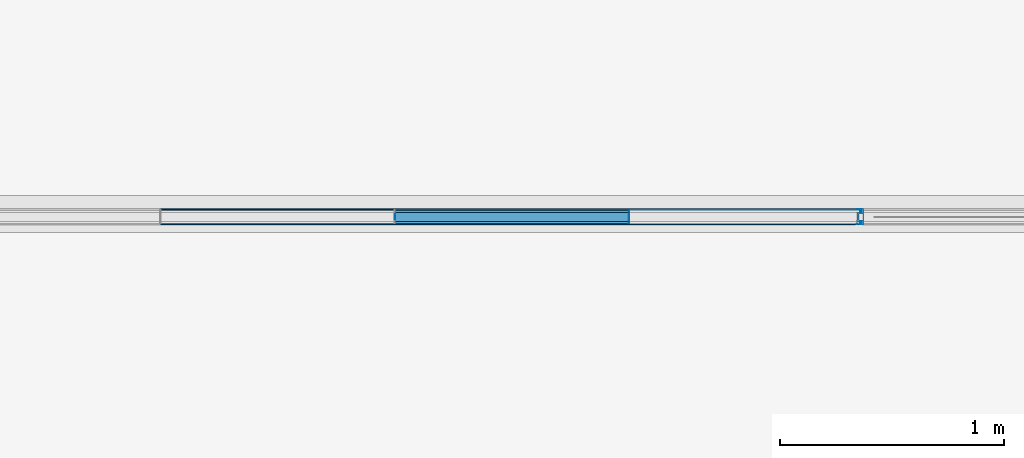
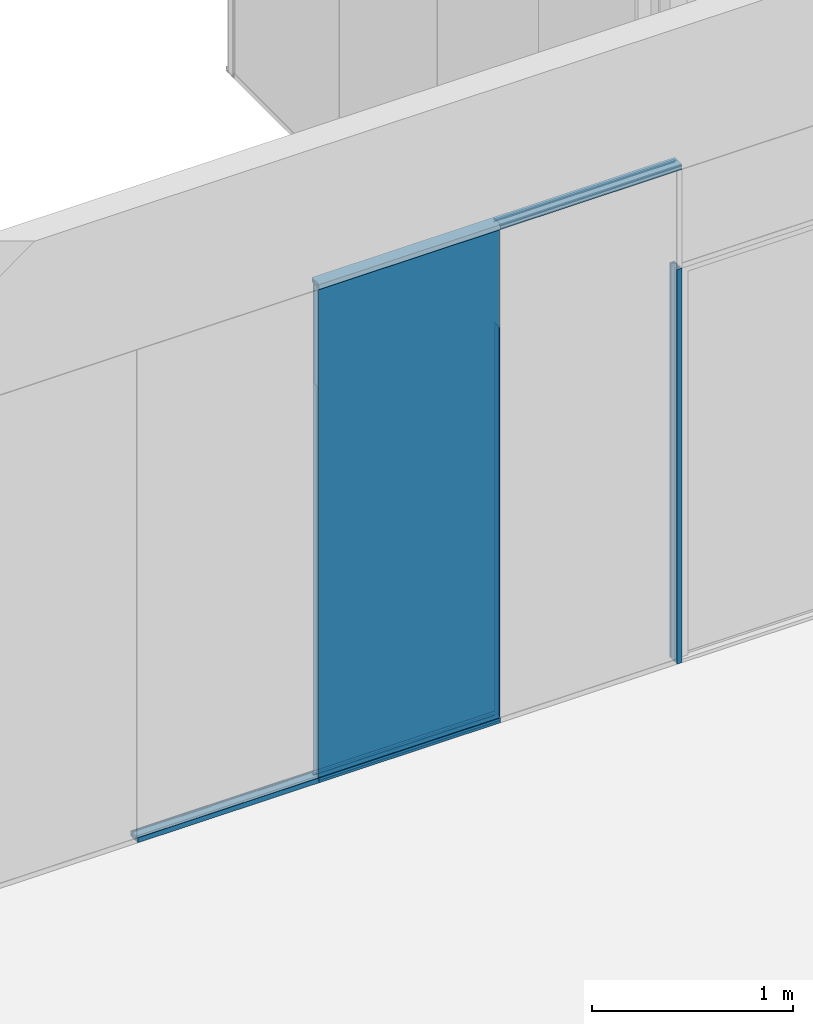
# One storey, part 75 of 387: 15 building element parts, 9 elements without a shape of their own.
"""IFC2X3 building model written with IfcOpenShell, lengths in millimetres."""

from ifc_helpers import new_model, entity, si_unit, converted_unit, derived_unit, money_unit, direction, frame, origin_with_axes, place, context, subcontext, project, spatial, faceted_brep, source, transform, mapped, material, type_object, element, aggregate, save


model = new_model("IFC2X3")

# Units and contexts
model_context = context("Model", 3, precision=0.01, world=origin_with_axes(), true_north=direction((0.0, 1.0)))
body_context = subcontext(model_context, "Body", "Model", "MODEL_VIEW")
ifc_project = project(units=[si_unit("LENGTHUNIT", "METRE", prefix="MILLI"), si_unit("AREAUNIT", "SQUARE_METRE"), si_unit("VOLUMEUNIT", "CUBIC_METRE"), converted_unit("PLANEANGLEUNIT", "DEGREE", entity("IfcPlaneAngleMeasure", 0.0174532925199), si_unit("PLANEANGLEUNIT", "RADIAN"), dimensions=[0, 0, 0, 0, 0, 0, 0]), si_unit("SOLIDANGLEUNIT", "STERADIAN"), money_unit("EUR"), converted_unit("TIMEUNIT", "Year", entity("IfcTimeMeasure", 31556926.0), si_unit("TIMEUNIT", "SECOND"), dimensions=[0, 0, 1, 0, 0, 0, 0]), si_unit("MASSUNIT", "GRAM", prefix="KILO"), si_unit("THERMODYNAMICTEMPERATUREUNIT", "DEGREE_CELSIUS"), si_unit("LUMINOUSINTENSITYUNIT", "LUMEN"), si_unit("ENERGYUNIT", "JOULE", prefix="MEGA"), derived_unit("THERMALCONDUCTANCEUNIT", [(si_unit("POWERUNIT", "WATT"), 1), (si_unit("LENGTHUNIT", "METRE"), -1), (si_unit("THERMODYNAMICTEMPERATUREUNIT", "KELVIN"), -1)]), derived_unit("SPECIFICHEATCAPACITYUNIT", [(si_unit("ENERGYUNIT", "JOULE"), 1), (si_unit("MASSUNIT", "GRAM", prefix="KILO"), -1), (si_unit("THERMODYNAMICTEMPERATUREUNIT", "KELVIN"), -1)]), derived_unit("MASSDENSITYUNIT", [(si_unit("MASSUNIT", "GRAM", prefix="KILO"), 1), (si_unit("VOLUMEUNIT", "CUBIC_METRE"), -1)])], contexts=[model_context])

# Site, building, storey
site_placement = place(None, origin_with_axes())
site = spatial("IfcSite", under=ifc_project, at=site_placement, Name="Puškini 31, Narva", CompositionType="ELEMENT")
building_placement = place(site_placement, origin_with_axes())
building = spatial("IfcBuilding", under=site, at=building_placement, Name="Narva Riigigümnaasium", CompositionType="ELEMENT")
storey_placement = place(building_placement, frame((0.0, 0.0, 2640.0), z_axis=(0.0, 0.0, 1.0), x_axis=(1.0, 0.0, 0.0)))
storey = spatial("IfcBuildingStorey", under=building, at=storey_placement, Name="2.korrus +2.64", CompositionType="ELEMENT", Elevation=2640.0)

# Curtain wall, members, building element parts, plate
curtain_wall_type = type_object("IfcCurtainWallType", Name="Curtain Wall Type", PredefinedType="NOTDEFINED")
curtain_wall_placement = place(storey_placement, frame((37550.2857124, 173462.999993, -4.40148757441e-05), z_axis=(0.0, 0.0, 1.0), x_axis=(1.0, 0.0, 0.0)))
curtain_wall = element("IfcCurtainWall", 1, at=curtain_wall_placement, inside=storey, type_object=curtain_wall_type, Name="G-SKLF-27")
member_type_1 = type_object("IfcMemberType", Name="30 x 37", PredefinedType="MULLION")
member_1_placement = place(curtain_wall_placement, frame((-592.285714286, -4.14956957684e-09, 3030.00004891), z_axis=(1.0, 0.0, 0.0), x_axis=(0.0, 0.0, -1.0)))
member_1 = element("IfcMember", 2, at=member_1_placement, type_object=member_type_1, Name="G-SKLF-59-raam", ObjectType="MULLION")
ifc_material_1 = material(Name="Klaasvill")
shared_shape_1 = source(origin_with_axes(), body_context, "Body", "Brep", [
    faceted_brep([(7.49999990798, 20.000000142, 0.0), (13.8499999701, 20.000000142, 0.0), (13.8499999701, 20.000000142, 1044.0), (7.49999990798, 20.000000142, 1044.0), (7.49999990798, 34.0161444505, 0.0), (13.8499999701, 34.0161444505, 0.0), (13.8499999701, 34.0161444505, 1044.0), (7.49999990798, 34.0161444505, 1044.0)], [[[0, 1, 2, 3]], [[0, 4, 5, 1]], [[1, 5, 6, 2]], [[3, 2, 6, 7]], [[4, 0, 3, 7]], [[5, 4, 7, 6]]]),
    faceted_brep([(24.987414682, 34.0161444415, 0.0), (25.004489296, 32.0307503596, 0.0), (25.004489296, 32.0307503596, 1044.0), (24.987414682, 34.0161444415, 1044.0), (28.5126239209, 34.0161444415, 0.0), (28.7655837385, 33.0385325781, 0.0), (28.4955493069, 32.0307503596, 0.0), (27.75780152, 31.2930025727, 0.0), (26.7500193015, 31.0229681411, 0.0), (25.742237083, 31.2930025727, 0.0), (25.742237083, 31.2930025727, 1044.0), (26.7500193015, 31.0229681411, 1044.0), (27.75780152, 31.2930025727, 1044.0), (28.4955493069, 32.0307503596, 1044.0), (28.7655837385, 33.0385325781, 1044.0), (28.5126239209, 34.0161444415, 1044.0)], [[[0, 1, 2, 3]], [[0, 4, 5, 6, 7, 8, 9, 1]], [[1, 9, 10, 2]], [[3, 2, 10, 11, 12, 13, 14, 15]], [[4, 0, 3, 15]], [[5, 4, 15, 14]], [[6, 5, 14, 13]], [[7, 6, 13, 12]], [[8, 7, 12, 11]], [[9, 8, 11, 10]]]),
    faceted_brep([(7.49999990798, -19.9999997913, 0.0), (7.49999990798, -34.0161445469, 0.0), (7.49999990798, -34.0161445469, 1044.0), (7.49999990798, -19.9999997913, 1044.0), (13.8499999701, -19.9999997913, 0.0), (13.8499999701, -34.0161445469, 0.0), (13.8499999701, -34.0161445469, 1044.0), (13.8499999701, -19.9999997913, 1044.0)], [[[0, 1, 2, 3]], [[0, 4, 5, 1]], [[1, 5, 6, 2]], [[3, 2, 6, 7]], [[4, 0, 3, 7]], [[5, 4, 7, 6]]]),
    faceted_brep([(25.004489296, -32.0307503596, 0.0), (24.987414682, -34.0161444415, 0.0), (24.987414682, -34.0161444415, 1044.0), (25.004489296, -32.0307503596, 1044.0), (25.742237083, -31.2930025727, 0.0), (26.7500193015, -31.0229681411, 0.0), (27.75780152, -31.2930025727, 0.0), (28.4955493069, -32.0307503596, 0.0), (28.7655837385, -33.0385325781, 0.0), (28.5126239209, -34.0161444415, 0.0), (28.5126239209, -34.0161444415, 1044.0), (28.7655837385, -33.0385325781, 1044.0), (28.4955493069, -32.0307503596, 1044.0), (27.75780152, -31.2930025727, 1044.0), (26.7500193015, -31.0229681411, 1044.0), (25.742237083, -31.2930025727, 1044.0)], [[[0, 1, 2, 3]], [[0, 4, 5, 6, 7, 8, 9, 1]], [[1, 9, 10, 2]], [[3, 2, 10, 11, 12, 13, 14, 15]], [[4, 0, 3, 15]], [[5, 4, 15, 14]], [[6, 5, 14, 13]], [[7, 6, 13, 12]], [[8, 7, 12, 11]], [[9, 8, 11, 10]]]),
])
building_element_part_1_placement = place(member_1_placement, origin_with_axes())
building_element_part_1 = element("IfcBuildingElementPart", 3, at=building_element_part_1_placement, material=ifc_material_1, Name="Klaasvill", context=body_context, shape_type="MappedRepresentation", body=[
    mapped(shared_shape_1, transform((0.0, 0.0, 0.0))),
])
member_2_placement = place(curtain_wall_placement, frame((-1636.28571429, -1.14539489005e-08, 3029.99994006), z_axis=(1.0, 0.0, 1.04265411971e-07), x_axis=(1.04265411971e-07, 0.0, -1.0)))
member_2 = element("IfcMember", 4, at=member_2_placement, type_object=member_type_1, Name="G-SKLF-58-raam", ObjectType="MULLION")
building_element_part_2_placement = place(member_2_placement, origin_with_axes())
building_element_part_2 = element("IfcBuildingElementPart", 5, at=building_element_part_2_placement, material=ifc_material_1, Name="Klaasvill", context=body_context, shape_type="MappedRepresentation", body=[
    mapped(shared_shape_1, transform((0.0, 0.0, 0.0))),
])
member_3_placement = place(curtain_wall_placement, frame((-592.285714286, -4.14956957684e-09, 3.92464998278e-05), z_axis=(-1.0, 0.0, 0.0), x_axis=(0.0, 0.0, 1.0)))
member_3 = element("IfcMember", 6, at=member_3_placement, type_object=member_type_1, Name="G-SKLF-49-raam", ObjectType="MULLION")
building_element_part_3_placement = place(member_3_placement, origin_with_axes())
building_element_part_3 = element("IfcBuildingElementPart", 7, at=building_element_part_3_placement, material=ifc_material_1, Name="Klaasvill", context=body_context, shape_type="MappedRepresentation", body=[
    mapped(shared_shape_1, transform((0.0, 0.0, 0.0))),
])
member_4_placement = place(curtain_wall_placement, frame((-1636.28571429, -1.14539489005e-08, 3.92464998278e-05), z_axis=(-1.0, 0.0, 0.0), x_axis=(0.0, 0.0, 1.0)))
member_4 = element("IfcMember", 8, at=member_4_placement, type_object=member_type_1, Name="G-SKLF-50-raam", ObjectType="MULLION")
building_element_part_4_placement = place(member_4_placement, origin_with_axes())
building_element_part_4 = element("IfcBuildingElementPart", 9, at=building_element_part_4_placement, material=ifc_material_1, Name="Klaasvill", context=body_context, shape_type="MappedRepresentation", body=[
    mapped(shared_shape_1, transform((0.0, 0.0, 0.0))),
])
ifc_material_2 = material(Name="Teras RAL7012")
shared_shape_2 = source(origin_with_axes(), body_context, "Body", "Brep", [
    faceted_brep([(0.0, -17.0000000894, 0.0), (29.5999996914, -17.0000000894, 0.0), (29.5999996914, -17.0000000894, 1044.0), (0.0, -17.0000000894, 1044.0), (0.0, 17.0000000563, 0.0), (29.5999996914, 17.0000000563, 0.0), (1.9999999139, 15.0000001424, 0.0), (1.9999999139, -15.0000001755, 0.0), (18.7999996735, -15.0000001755, 0.0), (18.7999996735, 15.0000001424, 0.0), (29.5999996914, 17.0000000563, 1044.0), (0.0, 17.0000000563, 1044.0), (1.9999999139, 15.0000001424, 1044.0), (18.7999996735, 15.0000001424, 1044.0), (18.7999996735, -15.0000001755, 1044.0), (1.9999999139, -15.0000001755, 1044.0)], [[[0, 1, 2, 3]], [[0, 4, 5, 1], [6, 7, 8, 9]], [[1, 5, 10, 2]], [[3, 2, 10, 11], [12, 13, 14, 15]], [[4, 0, 3, 11]], [[5, 4, 11, 10]], [[7, 6, 12, 15]], [[8, 7, 15, 14]], [[9, 8, 14, 13]], [[6, 9, 13, 12]]]),
    faceted_brep([(0.0, 17.0, 0.0), (29.5999996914, 17.0000000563, 0.0), (29.5999996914, 17.0000000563, 1044.0), (0.0, 17.0, 1044.0), (0.0, 37.0, 0.0), (30.0000193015, 37.0, 0.0), (30.0000193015, 34.0161444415, 0.0), (28.5126239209, 34.0161444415, 0.0), (24.987414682, 34.0161444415, 0.0), (13.8499999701, 34.0161444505, 0.0), (7.49999999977, 34.0161444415, 0.0), (7.49999999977, 20.0, 0.0), (13.8499999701, 20.000000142, 0.0), (30.0000193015, 20.0, 0.0), (30.0000193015, 17.0, 0.0), (30.0000193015, 17.0, 1044.0), (30.0000193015, 20.0, 1044.0), (13.8499999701, 20.000000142, 1044.0), (7.49999999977, 20.0, 1044.0), (7.49999999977, 34.0161444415, 1044.0), (13.8499999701, 34.0161444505, 1044.0), (24.987414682, 34.0161444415, 1044.0), (28.5126239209, 34.0161444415, 1044.0), (30.0000193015, 34.0161444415, 1044.0), (30.0000193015, 37.0, 1044.0), (0.0, 37.0, 1044.0)], [[[0, 1, 2, 3]], [[0, 4, 5, 6, 7, 8, 9, 10, 11, 12, 13, 14, 1]], [[1, 14, 15, 2]], [[3, 2, 15, 16, 17, 18, 19, 20, 21, 22, 23, 24, 25]], [[4, 0, 3, 25]], [[5, 4, 25, 24]], [[6, 5, 24, 23]], [[7, 6, 23, 22]], [[8, 7, 22, 21]], [[9, 8, 21, 20]], [[10, 9, 20, 19]], [[11, 10, 19, 18]], [[12, 11, 18, 17]], [[13, 12, 17, 16]], [[14, 13, 16, 15]]]),
    faceted_brep([(0.0, -17.0, 0.0), (0.0, -37.0, 0.0), (0.0, -37.0, 1044.0), (0.0, -17.0, 1044.0), (29.5999996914, -17.0000000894, 0.0), (30.0000193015, -17.0, 0.0), (30.0000193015, -20.0, 0.0), (13.8499999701, -19.9999997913, 0.0), (7.49999999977, -20.0, 0.0), (7.49999999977, -34.0161444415, 0.0), (13.8499999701, -34.0161445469, 0.0), (24.987414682, -34.0161444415, 0.0), (28.5126239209, -34.0161444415, 0.0), (30.0000193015, -34.0161444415, 0.0), (30.0000193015, -37.0, 0.0), (30.0000193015, -37.0, 1044.0), (30.0000193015, -34.0161444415, 1044.0), (28.5126239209, -34.0161444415, 1044.0), (24.987414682, -34.0161444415, 1044.0), (13.8499999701, -34.0161445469, 1044.0), (7.49999999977, -34.0161444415, 1044.0), (7.49999999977, -20.0, 1044.0), (13.8499999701, -19.9999997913, 1044.0), (30.0000193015, -20.0, 1044.0), (30.0000193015, -17.0, 1044.0), (29.5999996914, -17.0000000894, 1044.0)], [[[0, 1, 2, 3]], [[0, 4, 5, 6, 7, 8, 9, 10, 11, 12, 13, 14, 1]], [[1, 14, 15, 2]], [[3, 2, 15, 16, 17, 18, 19, 20, 21, 22, 23, 24, 25]], [[4, 0, 3, 25]], [[5, 4, 25, 24]], [[6, 5, 24, 23]], [[7, 6, 23, 22]], [[8, 7, 22, 21]], [[9, 8, 21, 20]], [[10, 9, 20, 19]], [[11, 10, 19, 18]], [[12, 11, 18, 17]], [[13, 12, 17, 16]], [[14, 13, 16, 15]]]),
])
building_element_part_5_placement = place(member_1_placement, origin_with_axes())
building_element_part_5 = element("IfcBuildingElementPart", 10, at=building_element_part_5_placement, material=ifc_material_2, Name="Teras RAL7012", context=body_context, shape_type="MappedRepresentation", body=[
    mapped(shared_shape_2, transform((0.0, 0.0, 0.0))),
])
aggregate(member_1, [building_element_part_1, building_element_part_5])
building_element_part_6_placement = place(member_2_placement, origin_with_axes())
building_element_part_6 = element("IfcBuildingElementPart", 11, at=building_element_part_6_placement, material=ifc_material_2, Name="Teras RAL7012", context=body_context, shape_type="MappedRepresentation", body=[
    mapped(shared_shape_2, transform((0.0, 0.0, 0.0))),
])
aggregate(member_2, [building_element_part_2, building_element_part_6])
building_element_part_7_placement = place(member_3_placement, origin_with_axes())
building_element_part_7 = element("IfcBuildingElementPart", 12, at=building_element_part_7_placement, material=ifc_material_2, Name="Teras RAL7012", context=body_context, shape_type="MappedRepresentation", body=[
    mapped(shared_shape_2, transform((0.0, 0.0, 0.0))),
])
aggregate(member_3, [building_element_part_3, building_element_part_7])
building_element_part_8_placement = place(member_4_placement, origin_with_axes())
building_element_part_8 = element("IfcBuildingElementPart", 13, at=building_element_part_8_placement, material=ifc_material_2, Name="Teras RAL7012", context=body_context, shape_type="MappedRepresentation", body=[
    mapped(shared_shape_2, transform((0.0, 0.0, 0.0))),
])
aggregate(member_4, [building_element_part_4, building_element_part_8])
member_type_2 = type_object("IfcMemberType", Name="Siseklaasfassaad - Raam n2htamatu 3 x 29", PredefinedType="MULLION")
member_5_placement = place(curtain_wall_placement, frame((-592.285714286, -4.14956957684e-09, 3.92464998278e-05), z_axis=(0.0, 0.0, 1.0), x_axis=(1.0, 0.0, 0.0)))
member_5 = element("IfcMember", 14, at=member_5_placement, type_object=member_type_2, Name="G-SKLF-27-raam", ObjectType="MULLION")
ifc_material_3 = material(Name="Klaas")
shared_shape_3 = source(origin_with_axes(), body_context, "Body", "Brep", [
    faceted_brep([(1.5000138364, 20.0064497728, 30.0000193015), (1.5000138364, 20.0064497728, 2400.00000477), (-1.4999861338, 20.0064497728, 2400.00000477), (-1.4999861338, 20.0064497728, 30.0000193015), (1.5000138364, 29.0064496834, 30.0000193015), (1.5000138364, 29.0064496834, 2400.00000477), (-1.4999861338, 29.0064496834, 2400.00000477), (-1.4999861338, 29.0064496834, 30.0000193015)], [[[0, 1, 2, 3]], [[4, 5, 1, 0]], [[2, 1, 5, 6]], [[3, 2, 6, 7]], [[3, 7, 4, 0]], [[7, 6, 5, 4]]]),
    faceted_brep([(-1.4999861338, -28.9935503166, 30.0000193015), (-1.4999861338, -28.9935503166, 2400.00000477), (-1.4999861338, -19.993550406, 2400.00000477), (-1.4999861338, -19.993550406, 30.0000193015), (1.5000138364, -28.9935503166, 30.0000193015), (1.5000138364, -28.9935503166, 2400.00000477), (1.5000138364, -19.993550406, 2400.00000477), (1.5000138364, -19.993550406, 30.0000193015)], [[[0, 1, 2, 3]], [[4, 5, 1, 0]], [[2, 1, 5, 6]], [[3, 2, 6, 7]], [[3, 7, 4, 0]], [[7, 6, 5, 4]]]),
])
building_element_part_9_placement = place(member_5_placement, origin_with_axes())
building_element_part_9 = element("IfcBuildingElementPart", 15, at=building_element_part_9_placement, material=ifc_material_3, Name="Klaas", context=body_context, shape_type="MappedRepresentation", body=[
    mapped(shared_shape_3, transform((0.0, 0.0, 0.0))),
])
ifc_material_4 = material(Name="VKR-06_Õhkvahe")
shared_shape_4 = source(origin_with_axes(), body_context, "Body", "Brep", [
    faceted_brep([(-1.4999861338, -19.9935503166, 30.0000193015), (-1.4999861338, -19.9935503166, 2400.00000477), (-1.4999861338, 20.0064496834, 2400.00000477), (-1.4999861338, 20.0064496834, 30.0000193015), (1.5000138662, -19.9935503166, 30.0000193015), (1.5000138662, -19.9935503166, 2400.00000477), (1.5000138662, 20.0064496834, 2400.00000477), (1.5000138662, 20.0064496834, 30.0000193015)], [[[0, 1, 2, 3]], [[4, 5, 1, 0]], [[2, 1, 5, 6]], [[3, 2, 6, 7]], [[3, 7, 4, 0]], [[7, 6, 5, 4]]]),
])
building_element_part_10_placement = place(member_5_placement, origin_with_axes())
building_element_part_10 = element("IfcBuildingElementPart", 16, at=building_element_part_10_placement, material=ifc_material_4, Name="VKR-06_Õhkvahe", context=body_context, shape_type="MappedRepresentation", body=[
    mapped(shared_shape_4, transform((0.0, 0.0, 0.0))),
])
aggregate(member_5, [building_element_part_9, building_element_part_10])
member_6_placement = place(curtain_wall_placement, frame((-1636.28571429, -1.14539489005e-08, 3.92464998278e-05), z_axis=(0.0, 0.0, 1.0), x_axis=(1.0, 0.0, 0.0)))
member_6 = element("IfcMember", 17, at=member_6_placement, type_object=member_type_2, Name="G-SKLF-27-raam", ObjectType="MULLION")
building_element_part_11_placement = place(member_6_placement, origin_with_axes())
building_element_part_11 = element("IfcBuildingElementPart", 18, at=building_element_part_11_placement, material=ifc_material_4, Name="VKR-06_Õhkvahe", context=body_context, shape_type="MappedRepresentation", body=[
    mapped(shared_shape_4, transform((0.0, 0.0, 0.0))),
])
aggregate(member_6, [building_element_part_11])
plate_type = type_object("IfcPlateType", Name="1041 x 615 x 10", PredefinedType="CURTAIN_PANEL")
plate_placement = place(curtain_wall_placement, frame((-1114.28571429, -7.78754838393e-09, 1810.00002592), z_axis=(0.0, 0.0, 1.0), x_axis=(1.0, 0.0, 0.0)))
plate = element("IfcPlate", 19, at=plate_placement, type_object=plate_type, Name="G-SKLF-27-klaas", ObjectType="CURTAIN_PANEL")
ifc_material_5 = material(Name="VKR-05_Klaas")
shared_shape_5 = source(origin_with_axes(), body_context, "Body", "Brep", [
    faceted_brep([(1042.50000958, 3014.99990948, -29.0), (1.49999195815, 3014.99999978, -29.0), (1.49999195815, 3014.99999978, -20.0), (1042.50000958, 3014.99990948, -20.0), (1042.50000958, 15.0000098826, -29.0), (1.49999195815, 15.0000098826, -29.0), (1.49999195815, 15.0000098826, -20.0), (1042.50000958, 15.0000098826, -20.0)], [[[0, 1, 2, 3]], [[0, 4, 5, 1]], [[1, 5, 6, 2]], [[3, 2, 6, 7]], [[4, 0, 3, 7]], [[5, 4, 7, 6]]]),
    faceted_brep([(1042.50000958, 3014.99990948, 20.0), (1.49999195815, 3014.99999978, 20.0), (1.49999195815, 3014.99999978, 29.0), (1042.50000958, 3014.99990948, 29.0), (1042.50000958, 15.0000098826, 20.0), (1.49999195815, 15.0000098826, 20.0), (1.49999195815, 15.0000098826, 29.0), (1042.50000958, 15.0000098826, 29.0)], [[[0, 1, 2, 3]], [[0, 4, 5, 1]], [[1, 5, 6, 2]], [[3, 2, 6, 7]], [[4, 0, 3, 7]], [[5, 4, 7, 6]]]),
])
building_element_part_12_placement = place(plate_placement, origin_with_axes())
building_element_part_12 = element("IfcBuildingElementPart", 20, at=building_element_part_12_placement, material=ifc_material_5, Name="VKR-05_Klaas", context=body_context, shape_type="MappedRepresentation", body=[
    mapped(shared_shape_5, transform((522.0, 0.0, -1809.99998667), x_axis=(-1.0, 0.0, 0.0), y_axis=(0.0, 0.0, 1.0), z_axis=(0.0, 1.0, 0.0))),
])
shared_shape_6 = source(origin_with_axes(), body_context, "Body", "Brep", [
    faceted_brep([(1042.50000958, 3014.99990948, -20.0), (1.49999195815, 3014.99999978, -20.0), (1.49999195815, 3014.99999978, 20.0), (1042.50000958, 3014.99990948, 20.0), (1042.50000958, 15.0000098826, -20.0), (1.49999195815, 15.0000098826, -20.0), (1.49999195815, 15.0000098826, 20.0), (1042.50000958, 15.0000098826, 20.0)], [[[0, 1, 2, 3]], [[0, 4, 5, 1]], [[1, 5, 6, 2]], [[3, 2, 6, 7]], [[4, 0, 3, 7]], [[5, 4, 7, 6]]]),
])
building_element_part_13_placement = place(plate_placement, origin_with_axes())
building_element_part_13 = element("IfcBuildingElementPart", 21, at=building_element_part_13_placement, material=ifc_material_4, Name="VKR-06_Õhkvahe", context=body_context, shape_type="MappedRepresentation", body=[
    mapped(shared_shape_6, transform((522.0, 0.0, -1809.99998667), x_axis=(-1.0, 0.0, 0.0), y_axis=(0.0, 0.0, 1.0), z_axis=(0.0, 1.0, 0.0))),
])
aggregate(plate, [building_element_part_12, building_element_part_13])
member_type_3 = type_object("IfcMemberType", Name="30 x 27", PredefinedType="MULLION")
member_7_placement = place(curtain_wall_placement, frame((451.714285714, 3.12638803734e-09, 3.92464998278e-05), z_axis=(0.0, 0.0, 1.0), x_axis=(1.0, 0.0, 0.0)))
member_7 = element("IfcMember", 22, at=member_7_placement, type_object=member_type_3, Name="G-SKLF-27-raam", ObjectType="MULLION")
aggregate(curtain_wall, [member_1, member_2, member_5, member_6, member_3, member_4, member_7, plate])
shared_shape_7 = source(origin_with_axes(), body_context, "Body", "Brep", [
    faceted_brep([(-13.8499999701, 20.000000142, 0.0), (-7.49999990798, 20.000000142, 0.0), (-7.49999990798, 20.000000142, 2400.00000477), (-13.8499999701, 20.000000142, 2400.00000477), (-13.8499999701, 34.0161444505, 0.0), (-7.49999990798, 34.0161444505, 0.0), (-7.49999990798, 34.0161444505, 2400.00000477), (-13.8499999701, 34.0161444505, 2400.00000477)], [[[0, 1, 2, 3]], [[0, 4, 5, 1]], [[1, 5, 6, 2]], [[3, 2, 6, 7]], [[4, 0, 3, 7]], [[5, 4, 7, 6]]]),
    faceted_brep([(-24.987414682, 34.0161444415, 0.0), (-28.7655837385, 33.0385325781, 0.0), (-28.7655837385, 33.0385325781, 2400.00000477), (-24.987414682, 34.0161444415, 2400.00000477), (-24.7344548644, 33.0385325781, 0.0), (-25.004489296, 32.0307503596, 0.0), (-25.742237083, 31.2930025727, 0.0), (-26.7500193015, 31.0229681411, 0.0), (-27.75780152, 31.2930025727, 0.0), (-28.4955493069, 32.0307503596, 0.0), (-28.4955493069, 32.0307503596, 2400.00000477), (-27.75780152, 31.2930025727, 2400.00000477), (-26.7500193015, 31.0229681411, 2400.00000477), (-25.742237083, 31.2930025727, 2400.00000477), (-25.004489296, 32.0307503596, 2400.00000477), (-24.7344548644, 33.0385325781, 2400.00000477)], [[[0, 1, 2, 3]], [[0, 4, 5, 6, 7, 8, 9, 1]], [[1, 9, 10, 2]], [[3, 2, 10, 11, 12, 13, 14, 15]], [[4, 0, 3, 15]], [[5, 4, 15, 14]], [[6, 5, 14, 13]], [[7, 6, 13, 12]], [[8, 7, 12, 11]], [[9, 8, 11, 10]]]),
    faceted_brep([(-13.8499999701, -19.9999997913, 0.0), (-13.8499999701, -34.0161445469, 0.0), (-13.8499999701, -34.0161445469, 2400.00000477), (-13.8499999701, -19.9999997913, 2400.00000477), (-7.49999990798, -19.9999997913, 0.0), (-7.49999990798, -34.0161445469, 0.0), (-7.49999990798, -34.0161445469, 2400.00000477), (-7.49999990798, -19.9999997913, 2400.00000477)], [[[0, 1, 2, 3]], [[0, 4, 5, 1]], [[1, 5, 6, 2]], [[3, 2, 6, 7]], [[4, 0, 3, 7]], [[5, 4, 7, 6]]]),
    faceted_brep([(-24.987414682, -34.0161444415, 0.0), (-25.004489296, -32.0307503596, 0.0), (-25.004489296, -32.0307503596, 2400.00000477), (-24.987414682, -34.0161444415, 2400.00000477), (-28.5126239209, -34.0161444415, 0.0), (-28.7655837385, -33.0385325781, 0.0), (-28.4955493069, -32.0307503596, 0.0), (-27.75780152, -31.2930025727, 0.0), (-26.7500193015, -31.0229681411, 0.0), (-25.742237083, -31.2930025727, 0.0), (-25.742237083, -31.2930025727, 2400.00000477), (-26.7500193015, -31.0229681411, 2400.00000477), (-27.75780152, -31.2930025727, 2400.00000477), (-28.4955493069, -32.0307503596, 2400.00000477), (-28.7655837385, -33.0385325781, 2400.00000477), (-28.5126239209, -34.0161444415, 2400.00000477)], [[[0, 1, 2, 3]], [[0, 4, 5, 6, 7, 8, 9, 1]], [[1, 9, 10, 2]], [[3, 2, 10, 11, 12, 13, 14, 15]], [[4, 0, 3, 15]], [[5, 4, 15, 14]], [[6, 5, 14, 13]], [[7, 6, 13, 12]], [[8, 7, 12, 11]], [[9, 8, 11, 10]]]),
])
building_element_part_14_placement = place(member_7_placement, origin_with_axes())
building_element_part_14 = element("IfcBuildingElementPart", 23, at=building_element_part_14_placement, material=ifc_material_1, Name="Klaasvill", context=body_context, shape_type="MappedRepresentation", body=[
    mapped(shared_shape_7, transform((0.0, 0.0, 0.0))),
])
shared_shape_8 = source(origin_with_axes(), body_context, "Body", "Brep", [
    faceted_brep([(-29.6000001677, 17.0000000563, 0.0), (-29.6000001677, -17.0000000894, 0.0), (-29.6000001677, -17.0000000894, 2400.00000477), (-29.6000001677, 17.0000000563, 2400.00000477), (3.28335792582e-07, 17.0000000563, 0.0), (3.28335792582e-07, -17.0000000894, 0.0), (-1.99999958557, -15.0000001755, 0.0), (-1.99999958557, 15.0000001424, 0.0), (-18.8000001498, 15.0000001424, 0.0), (-18.8000001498, -15.0000001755, 0.0), (3.28335792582e-07, -17.0000000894, 2400.00000477), (3.28335792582e-07, 17.0000000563, 2400.00000477), (-1.99999958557, -15.0000001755, 2400.00000477), (-18.8000001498, -15.0000001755, 2400.00000477), (-18.8000001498, 15.0000001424, 2400.00000477), (-1.99999958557, 15.0000001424, 2400.00000477)], [[[0, 1, 2, 3]], [[0, 4, 5, 1], [6, 7, 8, 9]], [[1, 5, 10, 2]], [[3, 2, 10, 11], [12, 13, 14, 15]], [[4, 0, 3, 11]], [[5, 4, 11, 10]], [[7, 6, 12, 15]], [[8, 7, 15, 14]], [[9, 8, 14, 13]], [[6, 9, 13, 12]]]),
    faceted_brep([(0.0, 17.0, 0.0), (0.0, 37.0, 0.0), (0.0, 37.0, 2400.00000477), (0.0, 17.0, 2400.00000477), (-29.6000001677, 17.0000000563, 0.0), (-30.0000193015, 17.0, 0.0), (-30.0000193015, 20.0, 0.0), (-13.8499999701, 20.000000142, 0.0), (-7.49999999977, 20.0, 0.0), (-7.49999999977, 34.0161444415, 0.0), (-13.8499999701, 34.0161444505, 0.0), (-24.987414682, 34.0161444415, 0.0), (-28.5126239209, 34.0161444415, 0.0), (-30.0000193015, 34.0161444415, 0.0), (-30.0000193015, 37.0, 0.0), (-30.0000193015, 37.0, 2400.00000477), (-30.0000193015, 34.0161444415, 2400.00000477), (-28.5126239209, 34.0161444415, 2400.00000477), (-24.987414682, 34.0161444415, 2400.00000477), (-13.8499999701, 34.0161444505, 2400.00000477), (-7.49999999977, 34.0161444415, 2400.00000477), (-7.49999999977, 20.0, 2400.00000477), (-13.8499999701, 20.000000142, 2400.00000477), (-30.0000193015, 20.0, 2400.00000477), (-30.0000193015, 17.0, 2400.00000477), (-29.6000001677, 17.0000000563, 2400.00000477)], [[[0, 1, 2, 3]], [[0, 4, 5, 6, 7, 8, 9, 10, 11, 12, 13, 14, 1]], [[1, 14, 15, 2]], [[3, 2, 15, 16, 17, 18, 19, 20, 21, 22, 23, 24, 25]], [[4, 0, 3, 25]], [[5, 4, 25, 24]], [[6, 5, 24, 23]], [[7, 6, 23, 22]], [[8, 7, 22, 21]], [[9, 8, 21, 20]], [[10, 9, 20, 19]], [[11, 10, 19, 18]], [[12, 11, 18, 17]], [[13, 12, 17, 16]], [[14, 13, 16, 15]]]),
    faceted_brep([(0.0, -17.0, 0.0), (-29.6000001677, -17.0000000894, 0.0), (-29.6000001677, -17.0000000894, 2400.00000477), (0.0, -17.0, 2400.00000477), (0.0, -37.0, 0.0), (-30.0000193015, -37.0, 0.0), (-30.0000193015, -34.0161444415, 0.0), (-28.5126239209, -34.0161444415, 0.0), (-24.987414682, -34.0161444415, 0.0), (-13.8499999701, -34.0161445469, 0.0), (-7.49999999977, -34.0161444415, 0.0), (-7.49999999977, -20.0, 0.0), (-13.8499999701, -19.9999997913, 0.0), (-30.0000193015, -20.0, 0.0), (-30.0000193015, -17.0, 0.0), (-30.0000193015, -17.0, 2400.00000477), (-30.0000193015, -20.0, 2400.00000477), (-13.8499999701, -19.9999997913, 2400.00000477), (-7.49999999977, -20.0, 2400.00000477), (-7.49999999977, -34.0161444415, 2400.00000477), (-13.8499999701, -34.0161445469, 2400.00000477), (-24.987414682, -34.0161444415, 2400.00000477), (-28.5126239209, -34.0161444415, 2400.00000477), (-30.0000193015, -34.0161444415, 2400.00000477), (-30.0000193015, -37.0, 2400.00000477), (0.0, -37.0, 2400.00000477)], [[[0, 1, 2, 3]], [[0, 4, 5, 6, 7, 8, 9, 10, 11, 12, 13, 14, 1]], [[1, 14, 15, 2]], [[3, 2, 15, 16, 17, 18, 19, 20, 21, 22, 23, 24, 25]], [[4, 0, 3, 25]], [[5, 4, 25, 24]], [[6, 5, 24, 23]], [[7, 6, 23, 22]], [[8, 7, 22, 21]], [[9, 8, 21, 20]], [[10, 9, 20, 19]], [[11, 10, 19, 18]], [[12, 11, 18, 17]], [[13, 12, 17, 16]], [[14, 13, 16, 15]]]),
])
building_element_part_15_placement = place(member_7_placement, origin_with_axes())
building_element_part_15 = element("IfcBuildingElementPart", 24, at=building_element_part_15_placement, material=ifc_material_2, Name="Teras RAL7012", context=body_context, shape_type="MappedRepresentation", body=[
    mapped(shared_shape_8, transform((0.0, 0.0, 0.0))),
])
aggregate(member_7, [building_element_part_14, building_element_part_15])

save(model, "model.ifc")
